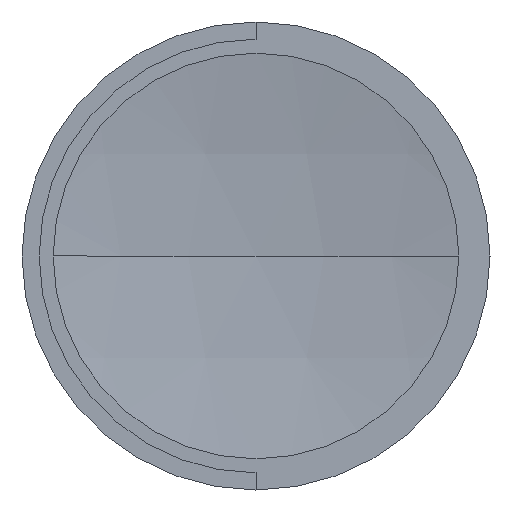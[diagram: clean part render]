
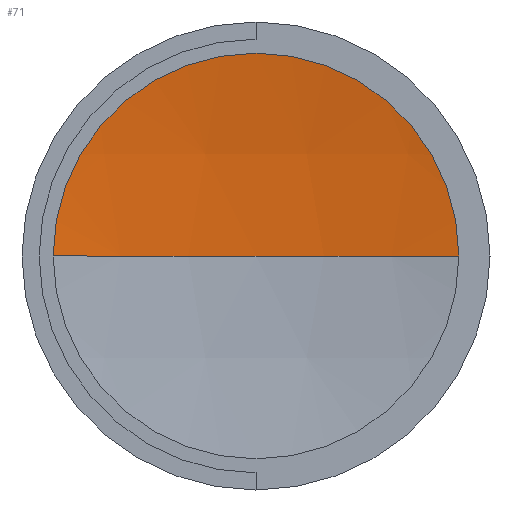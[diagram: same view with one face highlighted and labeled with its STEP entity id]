
A CAD part, front view. The second image highlights one B-rep face of the part: STEP entity #71.
In plain terms, the highlighted spherical face has radius 81 mm.
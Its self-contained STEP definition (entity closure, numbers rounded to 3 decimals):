
#1 = EDGE_CURVE ( 'NONE', #190, #200, #246, .T. ) ;
#14 = AXIS2_PLACEMENT_3D ( 'NONE', #266, #269, #271 ) ;
#20 = AXIS2_PLACEMENT_3D ( 'NONE', #312, #326, #296 ) ;
#26 = EDGE_CURVE ( 'NONE', #245, #190, #259, .T. ) ;
#27 = EDGE_CURVE ( 'NONE', #245, #200, #255, .T. ) ;
#59 = AXIS2_PLACEMENT_3D ( 'NONE', #279, #280, #275 ) ;
#60 = AXIS2_PLACEMENT_3D ( 'NONE', #314, #303, #322 ) ;
#71 = ADVANCED_FACE ( 'NONE', ( #108 ), #111, .F. ) ;
#108 = FACE_OUTER_BOUND ( 'NONE', #194, .T. ) ;
#111 = SPHERICAL_SURFACE ( 'NONE', #60, 81. ) ;
#172 = ORIENTED_EDGE ( 'NONE', *, *, #26, .T. ) ;
#176 = ORIENTED_EDGE ( 'NONE', *, *, #1, .T. ) ;
#180 = ORIENTED_EDGE ( 'NONE', *, *, #27, .F. ) ;
#190 = VERTEX_POINT ( 'NONE', #376 ) ;
#194 = EDGE_LOOP ( 'NONE', ( #180, #172, #176 ) ) ;
#200 = VERTEX_POINT ( 'NONE', #372 ) ;
#245 = VERTEX_POINT ( 'NONE', #392 ) ;
#246 = CIRCLE ( 'NONE', #59, 13. ) ;
#255 = CIRCLE ( 'NONE', #20, 81. ) ;
#259 = CIRCLE ( 'NONE', #14, 81. ) ;
#266 = CARTESIAN_POINT ( 'NONE',  ( 0., -75.95, 0. ) ) ;
#269 = DIRECTION ( 'NONE',  ( 0., 0., -1. ) ) ;
#271 = DIRECTION ( 'NONE',  ( -1., 0., 0. ) ) ;
#275 = DIRECTION ( 'NONE',  ( 1., 0., 0. ) ) ;
#279 = CARTESIAN_POINT ( 'NONE',  ( 0., 4., 0. ) ) ;
#280 = DIRECTION ( 'NONE',  ( 0., -1., 0. ) ) ;
#296 = DIRECTION ( 'NONE',  ( 1., 0., 0. ) ) ;
#303 = DIRECTION ( 'NONE',  ( 0., 0., -1. ) ) ;
#312 = CARTESIAN_POINT ( 'NONE',  ( 0., -75.95, 0. ) ) ;
#314 = CARTESIAN_POINT ( 'NONE',  ( 0., -75.95, 0. ) ) ;
#322 = DIRECTION ( 'NONE',  ( -1., 0., 0. ) ) ;
#326 = DIRECTION ( 'NONE',  ( 0., 0., 1. ) ) ;
#372 = CARTESIAN_POINT ( 'NONE',  ( -13., 4., 0. ) ) ;
#376 = CARTESIAN_POINT ( 'NONE',  ( 13., 4., 0. ) ) ;
#392 = CARTESIAN_POINT ( 'NONE',  ( 0., 5.05, 0. ) ) ;
